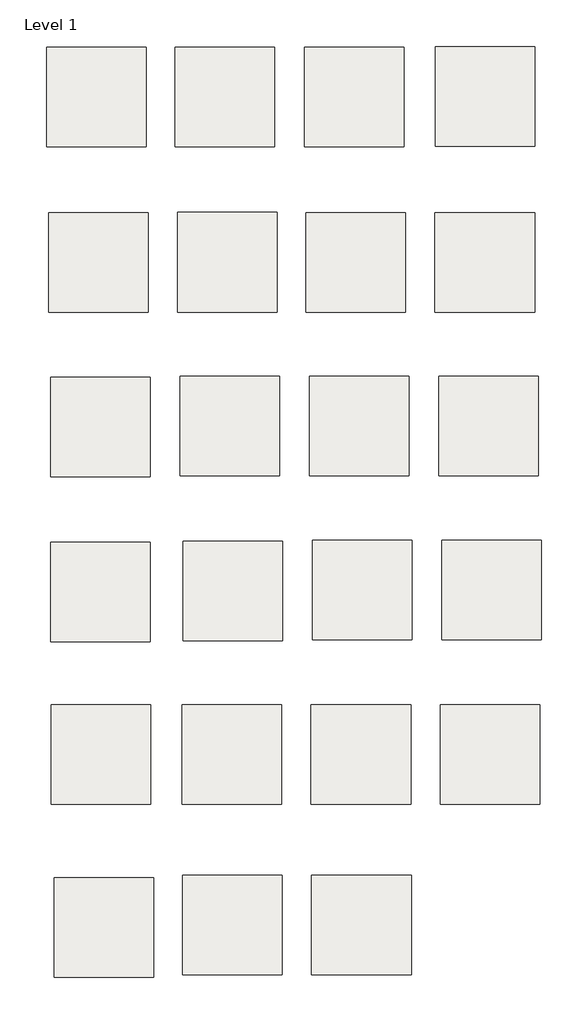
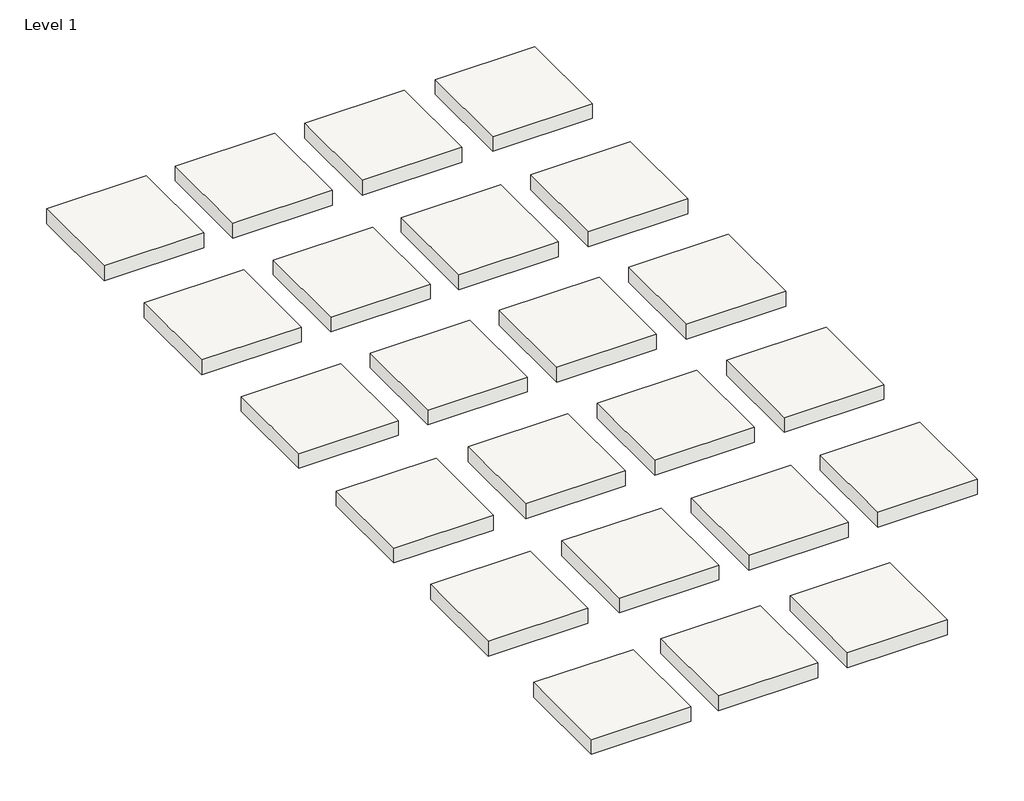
# One storey: 23 slabs.
"""IFC4 building model written with IfcOpenShell, lengths in millimetres."""

from ifc_helpers import new_model, si_unit, frame, origin, place, context, project, spatial, polyline, outline, extrude, element, save

model = new_model("IFC4")

# Units and contexts
model_context = context("Model", 3, world=origin())
ifc_project = project(units=[si_unit("LENGTHUNIT", "METRE", prefix="MILLI")], contexts=[model_context])

# Site, building, storey
site = spatial("IfcSite", under=ifc_project)
building = spatial("IfcBuilding", under=site)
storey = spatial("IfcBuildingStorey", under=building, Name="Level 1", Elevation=0.0)

# Slabs
placement = place(None, origin())
element("IfcSlab", 1, ObjectType="Armstrong_Rejuvenations_37501 knock knock", at=placement, inside=storey, context=model_context, shape_type="SweptSolid", body=[
    extrude(outline(polyline([(9302.3848395, 2595.5752845), (9302.3848395, 1071.5752845), (7778.3848395, 1071.5752845), (7778.3848395, 2595.5752845), (9302.3848395, 2595.5752845)])), frame((0.0, 0.0, -239.9109375), z_axis=(0.0, 0.0, 1.0), x_axis=(1.0, 0.0, 0.0)), (0.0, 0.0, 1.0), 239.9109375),
])
element("IfcSlab", 2, ObjectType="Armstrong_Rejuvenations_37502 sunscreen", at=placement, inside=storey, context=model_context, shape_type="SweptSolid", body=[
    extrude(outline(polyline([(3380.570133, 52.4890276), (3380.570133, -1471.5109724), (1856.570133, -1471.5109724), (1856.570133, 52.4890276), (3380.570133, 52.4890276)])), frame((0.0, 0.0, -239.9109375), z_axis=(0.0, 0.0, 1.0), x_axis=(1.0, 0.0, 0.0)), (0.0, 0.0, 1.0), 239.9109375),
])
element("IfcSlab", 3, ObjectType="Armstrong_Rejuvenations_37523 agave", at=placement, inside=storey, context=model_context, shape_type="SweptSolid", body=[
    extrude(outline(polyline([(5355.853139, 55.2614042), (5355.853139, -1468.7385958), (3831.853139, -1468.7385958), (3831.853139, 55.2614042), (5355.853139, 55.2614042)])), frame((0.0, 0.0, -239.9109375), z_axis=(0.0, 0.0, 1.0), x_axis=(1.0, 0.0, 0.0)), (0.0, 0.0, 1.0), 239.9109375),
])
element("IfcSlab", 4, ObjectType="Armstrong_Rejuvenations_37524 sugarcane", at=placement, inside=storey, context=model_context, shape_type="SweptSolid", body=[
    extrude(outline(polyline([(7319.2711224, 54.6812644), (7319.2711224, -1469.3187356), (5795.2711224, -1469.3187356), (5795.2711224, 54.6812644), (7319.2711224, 54.6812644)])), frame((0.0, 0.0, -239.9109375), z_axis=(0.0, 0.0, 1.0), x_axis=(1.0, 0.0, 0.0)), (0.0, 0.0, 1.0), 239.9109375),
])
element("IfcSlab", 5, ObjectType="Armstrong_Rejuvenations_37525 honeycomb", at=placement, inside=storey, context=model_context, shape_type="SweptSolid", body=[
    extrude(outline(polyline([(9300.4711224, 54.6812644), (9300.4711224, -1469.3187356), (7776.4711224, -1469.3187356), (7776.4711224, 54.6812644), (9300.4711224, 54.6812644)])), frame((0.0, 0.0, -239.9109375), z_axis=(0.0, 0.0, 1.0), x_axis=(1.0, 0.0, 0.0)), (0.0, 0.0, 1.0), 239.9109375),
])
element("IfcSlab", 6, ObjectType="Armstrong_Rejuvenations_37527 maple syrup", at=placement, inside=storey, context=model_context, shape_type="SweptSolid", body=[
    extrude(outline(polyline([(3413.0271007, -2466.4331995), (3413.0271007, -3990.4331995), (1889.0271007, -3990.4331995), (1889.0271007, -2466.4331995), (3413.0271007, -2466.4331995)])), frame((0.0, 0.0, -239.9109375), z_axis=(0.0, 0.0, 1.0), x_axis=(1.0, 0.0, 0.0)), (0.0, 0.0, 1.0), 239.9109375),
])
element("IfcSlab", 7, ObjectType="Armstrong_Rejuvenations_37529 baked bean", at=placement, inside=storey, context=model_context, shape_type="SweptSolid", body=[
    extrude(outline(polyline([(5394.4055838, -2449.2304569), (5394.4055838, -3973.2304569), (3870.4055838, -3973.2304569), (3870.4055838, -2449.2304569), (5394.4055838, -2449.2304569)])), frame((0.0, 0.0, -239.9109375), z_axis=(0.0, 0.0, 1.0), x_axis=(1.0, 0.0, 0.0)), (0.0, 0.0, 1.0), 239.9109375),
])
element("IfcSlab", 8, ObjectType="Armstrong_Rejuvenations_37530 crimson", at=placement, inside=storey, context=model_context, shape_type="SweptSolid", body=[
    extrude(outline(polyline([(7375.6055838, -2449.2304569), (7375.6055838, -3973.2304569), (5851.6055838, -3973.2304569), (5851.6055838, -2449.2304569), (7375.6055838, -2449.2304569)])), frame((0.0, 0.0, -239.9109375), z_axis=(0.0, 0.0, 1.0), x_axis=(1.0, 0.0, 0.0)), (0.0, 0.0, 1.0), 239.9109375),
])
element("IfcSlab", 9, ObjectType="Armstrong_Rejuvenations_37532 snow capped", at=placement, inside=storey, context=model_context, shape_type="SweptSolid", body=[
    extrude(outline(polyline([(9356.8055838, -2449.2304569), (9356.8055838, -3973.2304569), (7832.8055838, -3973.2304569), (7832.8055838, -2449.2304569), (9356.8055838, -2449.2304569)])), frame((0.0, 0.0, -239.9109375), z_axis=(0.0, 0.0, 1.0), x_axis=(1.0, 0.0, 0.0)), (0.0, 0.0, 1.0), 239.9109375),
])
element("IfcSlab", 10, ObjectType="Armstrong_Rejuvenations_37533 cabin", at=placement, inside=storey, context=model_context, shape_type="SweptSolid", body=[
    extrude(outline(polyline([(3413.2055838, -4989.2304569), (3413.2055838, -6513.2304569), (1889.2055838, -6513.2304569), (1889.2055838, -4989.2304569), (3413.2055838, -4989.2304569)])), frame((0.0, 0.0, -239.9109375), z_axis=(0.0, 0.0, 1.0), x_axis=(1.0, 0.0, 0.0)), (0.0, 0.0, 1.0), 239.9109375),
])
element("IfcSlab", 11, ObjectType="Armstrong_Rejuvenations_37537 molasses", at=placement, inside=storey, context=model_context, shape_type="SweptSolid", body=[
    extrude(outline(polyline([(5437.123106, -4977.4025887), (5437.123106, -6501.4025887), (3913.123106, -6501.4025887), (3913.123106, -4977.4025887), (5437.123106, -4977.4025887)])), frame((0.0, 0.0, -239.9109375), z_axis=(0.0, 0.0, 1.0), x_axis=(1.0, 0.0, 0.0)), (0.0, 0.0, 1.0), 239.9109375),
])
element("IfcSlab", 12, ObjectType="Armstrong_Rejuvenations_38501 golden treasure", at=placement, inside=storey, context=model_context, shape_type="SweptSolid", body=[
    extrude(outline(polyline([(7421.1027165, -4960.0120787), (7421.1027165, -6484.0120787), (5897.1027165, -6484.0120787), (5897.1027165, -4960.0120787), (7421.1027165, -4960.0120787)])), frame((0.0, 0.0, -239.9109375), z_axis=(0.0, 0.0, 1.0), x_axis=(1.0, 0.0, 0.0)), (0.0, 0.0, 1.0), 239.9109375),
])
element("IfcSlab", 13, ObjectType="Armstrong_Rejuvenations_38502 gingerly put", at=placement, inside=storey, context=model_context, shape_type="SweptSolid", body=[
    extrude(outline(polyline([(9402.3027165, -4960.0120787), (9402.3027165, -6484.0120787), (7878.3027165, -6484.0120787), (7878.3027165, -4960.0120787), (9402.3027165, -4960.0120787)])), frame((0.0, 0.0, -239.9109375), z_axis=(0.0, 0.0, 1.0), x_axis=(1.0, 0.0, 0.0)), (0.0, 0.0, 1.0), 239.9109375),
])
element("IfcSlab", 14, ObjectType="Armstrong_Rejuvenations_38504 regal", at=placement, inside=storey, context=model_context, shape_type="SweptSolid", body=[
    extrude(outline(polyline([(3417.8971773, -7478.6426126), (3417.8971773, -9002.6426126), (1893.8971773, -9002.6426126), (1893.8971773, -7478.6426126), (3417.8971773, -7478.6426126)])), frame((0.0, 0.0, -239.9109375), z_axis=(0.0, 0.0, 1.0), x_axis=(1.0, 0.0, 0.0)), (0.0, 0.0, 1.0), 239.9109375),
])
element("IfcSlab", 15, ObjectType="Armstrong_Rejuvenations_38505 empress sand", at=placement, inside=storey, context=model_context, shape_type="SweptSolid", body=[
    extrude(outline(polyline([(5421.7261427, -7481.4844598), (5421.7261427, -9005.4844598), (3897.7261427, -9005.4844598), (3897.7261427, -7481.4844598), (5421.7261427, -7481.4844598)])), frame((0.0, 0.0, -239.9109375), z_axis=(0.0, 0.0, 1.0), x_axis=(1.0, 0.0, 0.0)), (0.0, 0.0, 1.0), 239.9109375),
])
element("IfcSlab", 16, ObjectType="Armstrong_Rejuvenations_38506 royal", at=placement, inside=storey, context=model_context, shape_type="SweptSolid", body=[
    extrude(outline(polyline([(7402.9261427, -7481.4844598), (7402.9261427, -9005.4844598), (5878.9261427, -9005.4844598), (5878.9261427, -7481.4844598), (7402.9261427, -7481.4844598)])), frame((0.0, 0.0, -239.9109375), z_axis=(0.0, 0.0, 1.0), x_axis=(1.0, 0.0, 0.0)), (0.0, 0.0, 1.0), 239.9109375),
])
element("IfcSlab", 17, ObjectType="Armstrong_Rejuvenations_38508 koala", at=placement, inside=storey, context=model_context, shape_type="SweptSolid", body=[
    extrude(outline(polyline([(9384.1261427, -7481.4844598), (9384.1261427, -9005.4844598), (7860.1261427, -9005.4844598), (7860.1261427, -7481.4844598), (9384.1261427, -7481.4844598)])), frame((0.0, 0.0, -239.9109375), z_axis=(0.0, 0.0, 1.0), x_axis=(1.0, 0.0, 0.0)), (0.0, 0.0, 1.0), 239.9109375),
])
element("IfcSlab", 18, ObjectType="Armstrong_Rejuvenations_38509 melbourne", at=placement, inside=storey, context=model_context, shape_type="SweptSolid", body=[
    extrude(outline(polyline([(3467.9099959, -10131.112223), (3467.9099959, -11655.112223), (1943.9099959, -11655.112223), (1943.9099959, -10131.112223), (3467.9099959, -10131.112223)])), frame((0.0, 0.0, -239.9109375), z_axis=(0.0, 0.0, 1.0), x_axis=(1.0, 0.0, 0.0)), (0.0, 0.0, 1.0), 239.9109375),
])
element("IfcSlab", 19, ObjectType="Armstrong_Rejuvenations_38511 kangaroo", at=placement, inside=storey, context=model_context, shape_type="SweptSolid", body=[
    extrude(outline(polyline([(5429.1317612, -10093.072318), (5429.1317612, -11617.072318), (3905.1317612, -11617.072318), (3905.1317612, -10093.072318), (5429.1317612, -10093.072318)])), frame((0.0, 0.0, -239.9109375), z_axis=(0.0, 0.0, 1.0), x_axis=(1.0, 0.0, 0.0)), (0.0, 0.0, 1.0), 239.9109375),
])
element("IfcSlab", 20, ObjectType="Armstrong_Rejuvenations_38512 sydney", at=placement, inside=storey, context=model_context, shape_type="SweptSolid", body=[
    extrude(outline(polyline([(7410.3317612, -10093.072318), (7410.3317612, -11617.072318), (5886.3317612, -11617.072318), (5886.3317612, -10093.072318), (7410.3317612, -10093.072318)])), frame((0.0, 0.0, -239.9109375), z_axis=(0.0, 0.0, 1.0), x_axis=(1.0, 0.0, 0.0)), (0.0, 0.0, 1.0), 239.9109375),
])
element("IfcSlab", 21, ObjectType="Armstrong_Rejuvenations_34510 stone", at=placement, inside=storey, context=model_context, shape_type="SweptSolid", body=[
    extrude(outline(polyline([(3346.9663556, 2583.9296438), (3346.9663556, 1059.9296438), (1822.9663556, 1059.9296438), (1822.9663556, 2583.9296438), (3346.9663556, 2583.9296438)])), frame((0.0, 0.0, -239.9109375), z_axis=(0.0, 0.0, 1.0), x_axis=(1.0, 0.0, 0.0)), (0.0, 0.0, 1.0), 239.9109375),
])
element("IfcSlab", 22, ObjectType="Armstrong_Rejuvenations_34511 asphalt gray", at=placement, inside=storey, context=model_context, shape_type="SweptSolid", body=[
    extrude(outline(polyline([(5318.4757463, 2583.194946), (5318.4757463, 1059.194946), (3794.4757463, 1059.194946), (3794.4757463, 2583.194946), (5318.4757463, 2583.194946)])), frame((0.0, 0.0, -239.9109375), z_axis=(0.0, 0.0, 1.0), x_axis=(1.0, 0.0, 0.0)), (0.0, 0.0, 1.0), 239.9109375),
])
element("IfcSlab", 23, ObjectType="Armstrong_Rejuvenations_34512 pavement", at=placement, inside=storey, context=model_context, shape_type="SweptSolid", body=[
    extrude(outline(polyline([(7299.6757463, 2583.194946), (7299.6757463, 1059.194946), (5775.6757463, 1059.194946), (5775.6757463, 2583.194946), (7299.6757463, 2583.194946)])), frame((0.0, 0.0, -239.9109375), z_axis=(0.0, 0.0, 1.0), x_axis=(1.0, 0.0, 0.0)), (0.0, 0.0, 1.0), 239.9109375),
])

save(model, "model.ifc")
